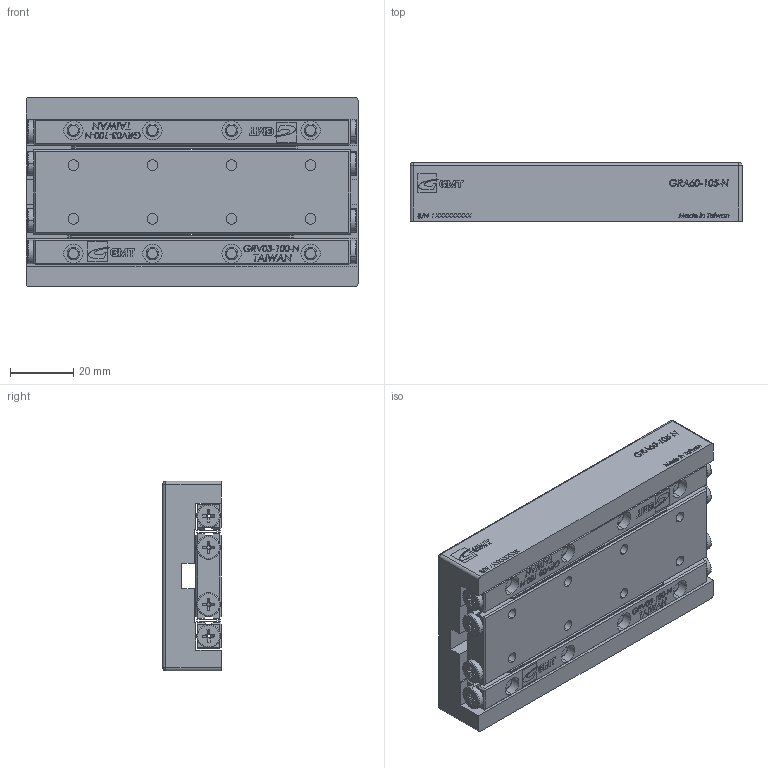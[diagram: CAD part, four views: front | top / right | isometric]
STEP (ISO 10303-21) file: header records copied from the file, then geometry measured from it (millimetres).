
FILE_DESCRIPTION (( 'STEP AP203' ), '1' );
FILE_NAME ('GRA60-105.STEP', '2012-10-19T02:03:20', ( '123' ), ( '' ), 'SwSTEP 2.0', 'SolidWorks 2012', '' );
FILE_SCHEMA (( 'CONFIG_CONTROL_DESIGN' ));
Length unit declared in the file: millimetre
Products named in the file (1): GRA60-105
Bounding box: 105 x 18.5 x 60 mm (x, y, z)
Surface area: 36199.1 mm2 (no closed solid volume)
Topology: 0 solids, 73 shells, 790 faces, 4010 edges, 3212 vertices
Faces by surface type: plane 531, cylinder 112, cone 64, torus 48, bspline 31, sphere 4
Entity records: 47838 total; most frequent: CARTESIAN_POINT 17612, DIRECTION 5691, ORIENTED_EDGE 5416, EDGE_CURVE 3990, VERTEX_POINT 3212, LINE 2601, VECTOR 2601, AXIS2_PLACEMENT_3D 1545
